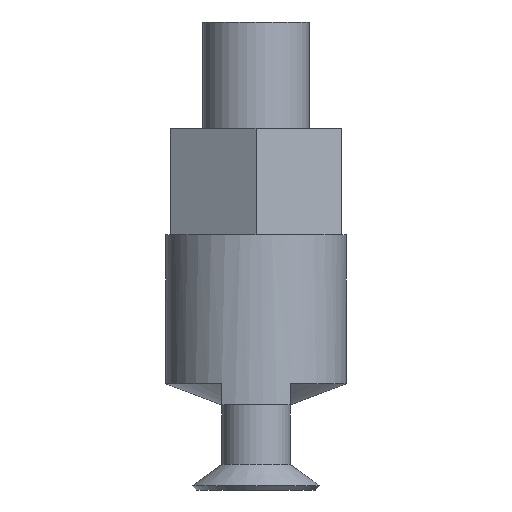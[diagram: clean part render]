
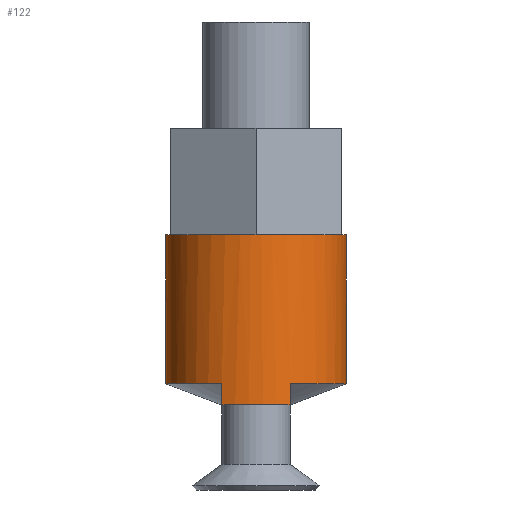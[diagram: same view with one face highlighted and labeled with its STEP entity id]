
A CAD part, left-side view. The second image highlights one B-rep face of the part: STEP entity #122.
In plain terms, the highlighted cylindrical face has radius 4.25 mm (diameter 8.5 mm), a partial arc.
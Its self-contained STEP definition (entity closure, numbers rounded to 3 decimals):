
#122=ADVANCED_FACE('NONE',(#276),#277,.T.);
#276=FACE_OUTER_BOUND('',#461,.T.);
#277=CYLINDRICAL_SURFACE('',#462,4.25);
#461=EDGE_LOOP('',(#747,#748,#749,#750,#751,#752,#753,#754,#755,#756,#757,#758,#759,#760));
#462=AXIS2_PLACEMENT_3D('',#761,#762,#763);
#747=ORIENTED_EDGE('',*,*,#1138,.F.);
#748=ORIENTED_EDGE('',*,*,#1139,.T.);
#749=ORIENTED_EDGE('',*,*,#1127,.F.);
#750=ORIENTED_EDGE('',*,*,#1140,.T.);
#751=ORIENTED_EDGE('',*,*,#1129,.F.);
#752=ORIENTED_EDGE('',*,*,#1141,.T.);
#753=ORIENTED_EDGE('',*,*,#1131,.F.);
#754=ORIENTED_EDGE('',*,*,#1142,.T.);
#755=ORIENTED_EDGE('',*,*,#1143,.T.);
#756=ORIENTED_EDGE('',*,*,#1144,.F.);
#757=ORIENTED_EDGE('',*,*,#1145,.T.);
#758=ORIENTED_EDGE('',*,*,#1146,.T.);
#759=ORIENTED_EDGE('',*,*,#1147,.F.);
#760=ORIENTED_EDGE('',*,*,#1148,.F.);
#761=CARTESIAN_POINT('',(0.0,0.0,-17.0));
#762=DIRECTION('',(0.0,0.0,-1.0));
#763=DIRECTION('',(0.0,1.0,0.0));
#1127=EDGE_CURVE('',#1297,#1303,#1348,.T.);
#1129=EDGE_CURVE('',#1335,#1295,#1350,.T.);
#1131=EDGE_CURVE('',#1329,#1333,#1352,.T.);
#1138=EDGE_CURVE('NONE',#1363,#1364,#1365,.T.);
#1139=EDGE_CURVE('NONE',#1363,#1303,#1366,.T.);
#1140=EDGE_CURVE('NONE',#1297,#1295,#1367,.T.);
#1141=EDGE_CURVE('NONE',#1335,#1333,#1368,.T.);
#1142=EDGE_CURVE('NONE',#1329,#1369,#1370,.T.);
#1143=EDGE_CURVE('NONE',#1369,#1249,#1371,.T.);
#1144=EDGE_CURVE('NONE',#1372,#1249,#1373,.T.);
#1145=EDGE_CURVE('NONE',#1372,#1374,#1375,.T.);
#1146=EDGE_CURVE('NONE',#1374,#1376,#1377,.T.);
#1147=EDGE_CURVE('NONE',#1378,#1376,#1379,.T.);
#1148=EDGE_CURVE('NONE',#1364,#1378,#1380,.T.);
#1249=VERTEX_POINT('NONE',#1511);
#1295=VERTEX_POINT('',#1579);
#1297=VERTEX_POINT('',#1582);
#1303=VERTEX_POINT('',#1591);
#1329=VERTEX_POINT('',#1630);
#1333=VERTEX_POINT('',#1636);
#1335=VERTEX_POINT('',#1639);
#1348=CIRCLE('',#1654,4.25);
#1350=CIRCLE('',#1656,4.25);
#1352=CIRCLE('',#1658,4.25);
#1363=VERTEX_POINT('NONE',#1671);
#1364=VERTEX_POINT('NONE',#1672);
#1365=LINE('',#1673,#1674);
#1366=CIRCLE('',#1675,4.25);
#1367=CIRCLE('',#1676,4.25);
#1368=CIRCLE('',#1677,4.25);
#1369=VERTEX_POINT('NONE',#1678);
#1370=CIRCLE('',#1679,4.25);
#1371=LINE('',#1680,#1681);
#1372=VERTEX_POINT('NONE',#1682);
#1373=CIRCLE('',#1683,4.25);
#1374=VERTEX_POINT('NONE',#1684);
#1375=LINE('',#1685,#1686);
#1376=VERTEX_POINT('NONE',#1687);
#1377=CIRCLE('',#1688,4.25);
#1378=VERTEX_POINT('NONE',#1689);
#1379=LINE('',#1690,#1691);
#1380=CIRCLE('',#1692,4.25);
#1511=CARTESIAN_POINT('',(0.0,4.25,-12.0));
#1579=CARTESIAN_POINT('',(-4.182,-0.756,-5.0));
#1582=CARTESIAN_POINT('',(-2.746,-3.244,-5.0));
#1591=CARTESIAN_POINT('',(-1.436,-4.0,-5.0));
#1630=CARTESIAN_POINT('',(-1.436,4.0,-5.0));
#1636=CARTESIAN_POINT('',(-2.746,3.244,-5.0));
#1639=CARTESIAN_POINT('',(-4.182,0.756,-5.0));
#1654=AXIS2_PLACEMENT_3D('',#1953,#1954,#1955);
#1656=AXIS2_PLACEMENT_3D('',#1956,#1957,#1958);
#1658=AXIS2_PLACEMENT_3D('',#1959,#1960,#1961);
#1671=CARTESIAN_POINT('',(0.,-4.25,-5.0));
#1672=CARTESIAN_POINT('',(0.0,-4.25,-12.0));
#1673=CARTESIAN_POINT('',(0.,-4.25,-17.0));
#1674=VECTOR('',#1970,1000.0);
#1675=AXIS2_PLACEMENT_3D('',#1971,#1972,#1973);
#1676=AXIS2_PLACEMENT_3D('',#1974,#1975,#1976);
#1677=AXIS2_PLACEMENT_3D('',#1977,#1978,#1979);
#1678=CARTESIAN_POINT('',(0.0,4.25,-5.0));
#1679=AXIS2_PLACEMENT_3D('',#1980,#1981,#1982);
#1680=CARTESIAN_POINT('',(0.0,4.25,-17.0));
#1681=VECTOR('',#1983,1000.0);
#1682=CARTESIAN_POINT('',(-3.937,1.6,-12.0));
#1683=AXIS2_PLACEMENT_3D('',#1984,#1985,#1986);
#1684=CARTESIAN_POINT('',(-3.937,1.6,-13.0));
#1685=CARTESIAN_POINT('',(-3.937,1.6,-4.999));
#1686=VECTOR('',#1987,1000.0);
#1687=CARTESIAN_POINT('',(-3.937,-1.6,-13.0));
#1688=AXIS2_PLACEMENT_3D('',#1988,#1989,#1990);
#1689=CARTESIAN_POINT('',(-3.937,-1.6,-12.0));
#1690=CARTESIAN_POINT('',(-3.937,-1.6,-4.999));
#1691=VECTOR('',#1991,1000.0);
#1692=AXIS2_PLACEMENT_3D('',#1992,#1993,#1994);
#1953=CARTESIAN_POINT('',(0.0,0.0,-5.0));
#1954=DIRECTION('',(0.0,-0.0,1.0));
#1955=DIRECTION('',(0.0,1.0,0.0));
#1956=CARTESIAN_POINT('',(0.0,0.0,-5.0));
#1957=DIRECTION('',(0.0,-0.0,1.0));
#1958=DIRECTION('',(0.0,1.0,0.0));
#1959=CARTESIAN_POINT('',(0.0,0.0,-5.0));
#1960=DIRECTION('',(0.0,-0.0,1.0));
#1961=DIRECTION('',(0.0,1.0,0.0));
#1970=DIRECTION('',(0.0,0.0,-1.0));
#1971=CARTESIAN_POINT('',(0.0,0.0,-5.0));
#1972=DIRECTION('',(0.0,0.0,-1.0));
#1973=DIRECTION('',(0.0,1.0,0.0));
#1974=CARTESIAN_POINT('',(0.0,0.0,-5.0));
#1975=DIRECTION('',(0.0,0.0,-1.0));
#1976=DIRECTION('',(0.0,1.0,0.0));
#1977=CARTESIAN_POINT('',(0.0,0.0,-5.0));
#1978=DIRECTION('',(0.0,0.0,-1.0));
#1979=DIRECTION('',(0.0,1.0,0.0));
#1980=CARTESIAN_POINT('',(0.0,0.0,-5.0));
#1981=DIRECTION('',(0.0,0.0,-1.0));
#1982=DIRECTION('',(0.0,1.0,0.0));
#1983=DIRECTION('',(0.0,0.0,-1.0));
#1984=CARTESIAN_POINT('',(0.0,0.0,-12.0));
#1985=DIRECTION('',(0.0,0.0,-1.0));
#1986=DIRECTION('',(0.0,1.0,0.0));
#1987=DIRECTION('',(0.0,0.0,-1.0));
#1988=CARTESIAN_POINT('',(0.0,0.0,-13.0));
#1989=DIRECTION('',(0.0,0.0,1.0));
#1990=DIRECTION('',(0.0,-1.0,0.0));
#1991=DIRECTION('',(0.0,0.0,-1.0));
#1992=CARTESIAN_POINT('',(0.0,0.0,-12.0));
#1993=DIRECTION('',(0.0,0.0,-1.0));
#1994=DIRECTION('',(0.0,1.0,0.0));
